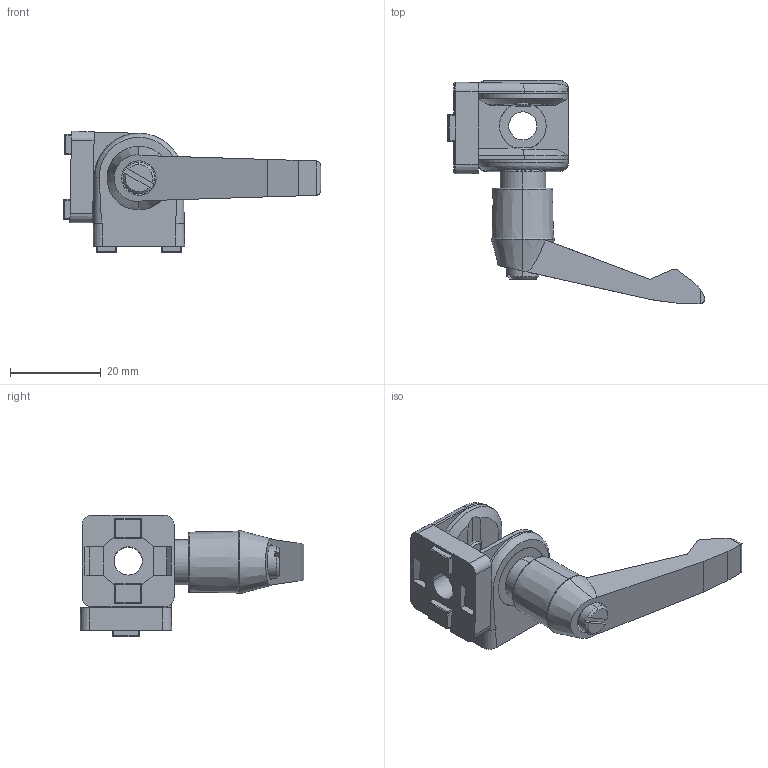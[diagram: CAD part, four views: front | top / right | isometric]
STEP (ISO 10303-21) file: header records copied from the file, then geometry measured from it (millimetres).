
FILE_DESCRIPTION (( 'STEP AP203' ), '1' );
FILE_NAME ('0105G2020KH.STEP', '2024-03-14T09:29:49', ( 'Windows-Benutzer' ), ( '' ), 'SwSTEP 2.0', 'SolidWorks 2023', '' );
FILE_SCHEMA (( 'CONFIG_CONTROL_DESIGN' ));
Length unit declared in the file: millimetre
Products named in the file (5): 0105G2020KH; Gelenk5_20x20_(-55)_part3; Gelenk5_20x20_(-45)_part4; Gelenk5_20x20_(-55)_part2; Gelenk5_20x20_(45)_part1
Assembly tree (5 placements, depth 2):
  0105G2020KH
    Gelenk5_20x20_(45)_part1
    Gelenk5_20x20_(-55)_part2
    Gelenk5_20x20_(-55)_part3  x2
    Gelenk5_20x20_(-45)_part4
Bounding box: 56.61 x 49.27 x 26.8 mm (x, y, z)
Volume: 10513.2 mm3; surface area: 9555.4 mm2
Topology: 5 solids, 5 shells, 470 faces, 1129 edges, 676 vertices
Faces by surface type: plane 180, cylinder 161, bspline 74, cone 55
Entity records: 16040 total; most frequent: CARTESIAN_POINT 5662, ORIENTED_EDGE 2110, DIRECTION 1988, EDGE_CURVE 1055, AXIS2_PLACEMENT_3D 718, VERTEX_POINT 645, VECTOR 552, LINE 552
